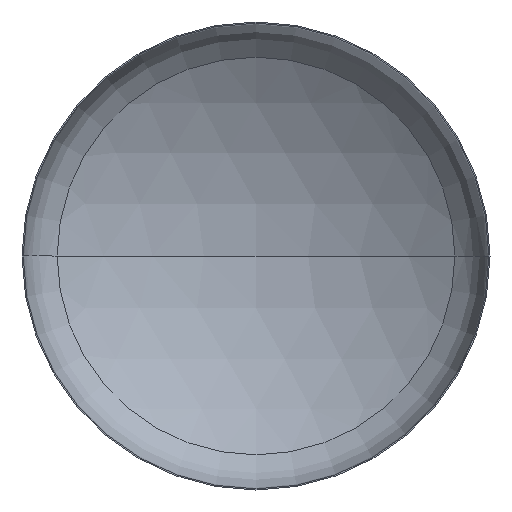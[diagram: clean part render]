
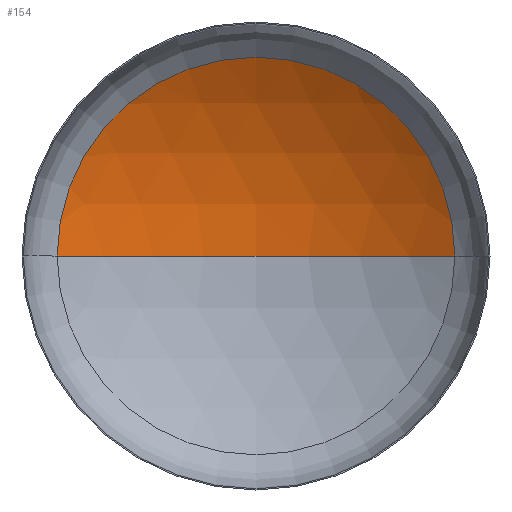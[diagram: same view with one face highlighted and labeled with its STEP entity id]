
A CAD part, front view. The second image highlights one B-rep face of the part: STEP entity #154.
In plain terms, the highlighted spherical face has radius 1600 mm.
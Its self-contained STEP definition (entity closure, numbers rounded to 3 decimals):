
#4 = EDGE_LOOP ( 'NONE', ( #110, #151, #100 ) ) ;
#15 = AXIS2_PLACEMENT_3D ( 'NONE', #255, #178, #346 ) ;
#17 = AXIS2_PLACEMENT_3D ( 'NONE', #200, #174, #205 ) ;
#25 = AXIS2_PLACEMENT_3D ( 'NONE', #172, #191, #196 ) ;
#26 = DIRECTION ( 'NONE',  ( 0., 0., -1. ) ) ;
#35 = VERTEX_POINT ( 'NONE', #391 ) ;
#38 = CARTESIAN_POINT ( 'NONE',  ( 0., -1073.103, 0. ) ) ;
#51 = VERTEX_POINT ( 'NONE', #193 ) ;
#55 = AXIS2_PLACEMENT_3D ( 'NONE', #38, #26, #124 ) ;
#100 = ORIENTED_EDGE ( 'NONE', *, *, #348, .T. ) ;
#103 = VERTEX_POINT ( 'NONE', #195 ) ;
#110 = ORIENTED_EDGE ( 'NONE', *, *, #358, .F. ) ;
#124 = DIRECTION ( 'NONE',  ( -1., 0., 0. ) ) ;
#142 = CIRCLE ( 'NONE', #17, 1600. ) ;
#151 = ORIENTED_EDGE ( 'NONE', *, *, #353, .T. ) ;
#154 = ADVANCED_FACE ( 'NONE', ( #187 ), #369, .F. ) ;
#172 = CARTESIAN_POINT ( 'NONE',  ( 0., 282.684, 0. ) ) ;
#174 = DIRECTION ( 'NONE',  ( 0., 0., -1. ) ) ;
#178 = DIRECTION ( 'NONE',  ( 0., 0., 1. ) ) ;
#187 = FACE_OUTER_BOUND ( 'NONE', #4, .T. ) ;
#191 = DIRECTION ( 'NONE',  ( 0., -1., 0. ) ) ;
#193 = CARTESIAN_POINT ( 'NONE',  ( -849.612, 282.684, 0. ) ) ;
#195 = CARTESIAN_POINT ( 'NONE',  ( 849.612, 282.684, 0. ) ) ;
#196 = DIRECTION ( 'NONE',  ( 1., 0., 0. ) ) ;
#200 = CARTESIAN_POINT ( 'NONE',  ( 0., -1073.103, 0. ) ) ;
#205 = DIRECTION ( 'NONE',  ( -1., 0., 0. ) ) ;
#255 = CARTESIAN_POINT ( 'NONE',  ( 0., -1073.103, 0. ) ) ;
#260 = CIRCLE ( 'NONE', #15, 1600. ) ;
#346 = DIRECTION ( 'NONE',  ( 1., 0., 0. ) ) ;
#348 = EDGE_CURVE ( 'NONE', #103, #51, #398, .T. ) ;
#353 = EDGE_CURVE ( 'NONE', #35, #103, #142, .T. ) ;
#358 = EDGE_CURVE ( 'NONE', #35, #51, #260, .T. ) ;
#369 = SPHERICAL_SURFACE ( 'NONE', #55, 1600. ) ;
#391 = CARTESIAN_POINT ( 'NONE',  ( 0., 526.897, 0. ) ) ;
#398 = CIRCLE ( 'NONE', #25, 849.612 ) ;
